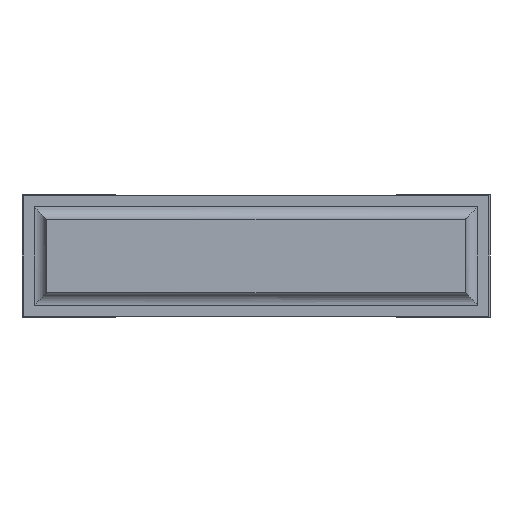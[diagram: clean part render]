
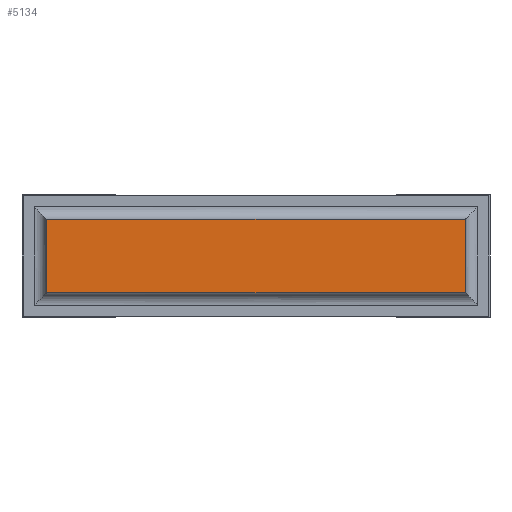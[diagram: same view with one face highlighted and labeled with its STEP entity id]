
A CAD part, front view. The second image highlights one B-rep face of the part: STEP entity #5134.
In plain terms, the highlighted planar face has unit normal (0, -1, 0).
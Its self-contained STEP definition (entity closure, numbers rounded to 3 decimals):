
#136=PLANE('',#5477);
#376=FACE_OUTER_BOUND('',#662,.T.);
#662=EDGE_LOOP('',(#3743,#3744,#3745,#3746));
#989=LINE('',#7467,#1645);
#1014=LINE('',#7526,#1670);
#1015=LINE('',#7528,#1671);
#1016=LINE('',#7529,#1672);
#1645=VECTOR('',#6025,10.);
#1670=VECTOR('',#6078,10.);
#1671=VECTOR('',#6079,10.);
#1672=VECTOR('',#6080,10.);
#2315=VERTEX_POINT('',#7464);
#2316=VERTEX_POINT('',#7466);
#2336=VERTEX_POINT('',#7525);
#2337=VERTEX_POINT('',#7527);
#2855=EDGE_CURVE('',#2316,#2315,#989,.T.);
#2885=EDGE_CURVE('',#2315,#2336,#1014,.T.);
#2886=EDGE_CURVE('',#2336,#2337,#1015,.T.);
#2887=EDGE_CURVE('',#2337,#2316,#1016,.T.);
#3743=ORIENTED_EDGE('',*,*,#2885,.T.);
#3744=ORIENTED_EDGE('',*,*,#2886,.T.);
#3745=ORIENTED_EDGE('',*,*,#2887,.T.);
#3746=ORIENTED_EDGE('',*,*,#2855,.T.);
#5134=ADVANCED_FACE('',(#376),#136,.T.);
#5477=AXIS2_PLACEMENT_3D('',#7524,#6076,#6077);
#6025=DIRECTION('',(0.,0.,-1.));
#6076=DIRECTION('center_axis',(0.,-1.,0.));
#6077=DIRECTION('ref_axis',(0.,0.,-1.));
#6078=DIRECTION('',(1.,0.,0.));
#6079=DIRECTION('',(0.,0.,1.));
#6080=DIRECTION('',(-1.,0.,0.));
#7464=CARTESIAN_POINT('',(0.1,0.,0.1));
#7466=CARTESIAN_POINT('',(0.1,0.,0.4));
#7467=CARTESIAN_POINT('',(0.1,0.,0.4));
#7524=CARTESIAN_POINT('Origin',(0.1,0.,0.25));
#7525=CARTESIAN_POINT('',(1.81,0.,0.1));
#7526=CARTESIAN_POINT('',(0.1,0.,0.1));
#7527=CARTESIAN_POINT('',(1.81,0.,0.4));
#7528=CARTESIAN_POINT('',(1.81,0.,0.1));
#7529=CARTESIAN_POINT('',(1.81,0.,0.4));
